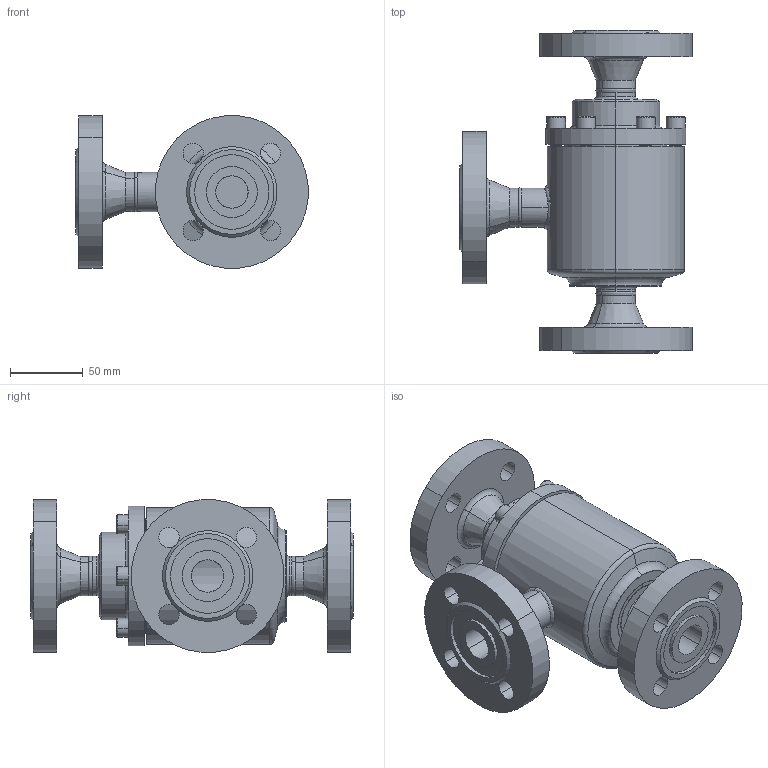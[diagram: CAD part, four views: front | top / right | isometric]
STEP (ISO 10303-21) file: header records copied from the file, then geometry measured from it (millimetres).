
FILE_DESCRIPTION (( 'STEP AP214' ), '1' );
FILE_NAME ('TR47020C11-DN20_DIN_PS40.STEP', '2005-08-10T11:28:40', ( 'Herr Grams' ), ( 'AWP GmbH' ), 'SwSTEP 2.0', 'SolidWorks 2002296', '' );
FILE_SCHEMA (( 'AUTOMOTIVE_DESIGN' ));
Length unit declared in the file: millimetre
Products named in the file (14): TR47020C11-DN20_DIN_PS40; TR20-1_Standard; Deckel47000E11_DN20_PS40_R1_Standard; Geh-kpl47020E11-DN20_PS40_DIN_Standard; RohrstutzA47000E11-DN20_PS40_R1_Standard; Stutzenteil47000E11_DN20_PS40_R1_Standard; Geh47000E11_DN20_PS40_R1_Standard; bead11-3_Standard; bead11-1_Standard; Flansch-DIN-Nut_PS40_DIN-Flansch-DN020_PS40-Nut; bead11-5_Standard; bead11-4_Standard; Führungsring47050-11-DN15-40_Standard; Zylinderschraube-DIN912-M 8x22_M 8x 22
Assembly tree (20 placements, depth 3):
  TR47020C11-DN20_DIN_PS40
    Zylinderschraube-DIN912-M 8x22_M 8x 22  x6
    Deckel47000E11_DN20_PS40_R1_Standard
    Flansch-DIN-Nut_PS40_DIN-Flansch-DN020_PS40-Nut
    Geh-kpl47020E11-DN20_PS40_DIN_Standard
      Stutzenteil47000E11_DN20_PS40_R1_Standard
      Flansch-DIN-Nut_PS40_DIN-Flansch-DN020_PS40-Nut  x2
      bead11-5_Standard
      bead11-3_Standard
      RohrstutzA47000E11-DN20_PS40_R1_Standard
      bead11-1_Standard
      Geh47000E11_DN20_PS40_R1_Standard
      bead11-4_Standard
    TR20-1_Standard
    Führungsring47050-11-DN15-40_Standard
Bounding box: 159.3 x 221.5 x 104.6 mm (x, y, z)
Volume: 883477.3 mm3; surface area: 209200.7 mm2
Topology: 19 solids, 19 shells, 572 faces, 1474 edges, 956 vertices
Faces by surface type: cylinder 346, plane 110, cone 56, bspline 30, torus 30
Entity records: 24750 total; most frequent: CARTESIAN_POINT 18202, ORIENTED_EDGE 1176, DIRECTION 1120, EDGE_CURVE 588, AXIS2_PLACEMENT_3D 468, VERTEX_POINT 376, EDGE_LOOP 298, FACE_OUTER_BOUND 242
